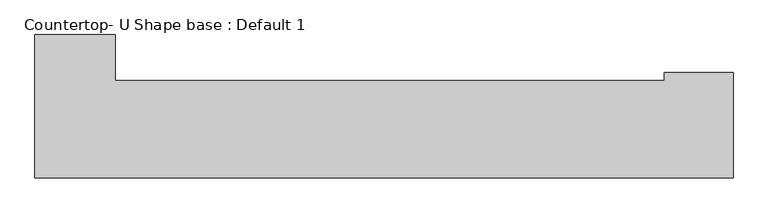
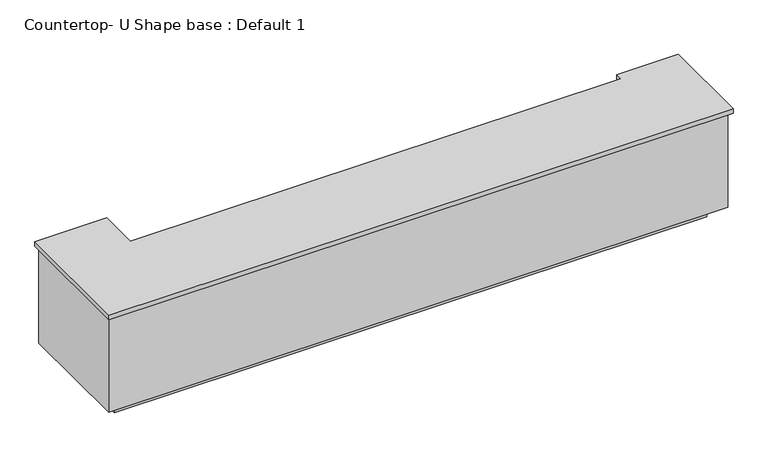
"""IFC4 building model written with IfcOpenShell, lengths in millimetres: proxy geometry, Countertop- U Shape base : Default 1."""

from ifc_helpers import new_model, si_unit, frame, origin, origin_with_axes, place, context, project, spatial, polyline, outline, extrude, source, transform, mapped, element, save


def countertop_u_shape_base_default_1_79f53b93(model_context):
    return source(origin(), model_context, "Body", "SweptSolid", [
        extrude(outline(polyline([(-2761.75, -19.05), (-2761.75, 958.85), (-2215.65, 958.85), (-2215.65, 647.7), (1524.5, 647.7), (1524.5, 701.9), (1994.4, 701.9), (1994.4, -19.05), (-2761.75, -19.05)])), frame((0.0, 0.0, 876.3), z_axis=(0.0, 0.0, 1.0), x_axis=(1.0, 0.0, 0.0)), (0.0, 0.0, 1.0), 38.1),
        extrude(outline(polyline([(1543.55, 628.65), (1543.55, 682.85), (1975.35, 682.85), (1975.35, 19.05), (-2742.7, 19.05), (-2742.7, 939.8), (-2234.7, 939.8), (-2234.7, 628.65), (1543.55, 628.65)])), frame((0.0, 0.0, 101.6), z_axis=(0.0, 0.0, 1.0), x_axis=(1.0, 0.0, 0.0)), (0.0, 0.0, 1.0), 774.7),
        extrude(outline(polyline([(-2311.0545837, 838.2), (-2311.0545837, 527.05), (1645.15, 527.05), (1645.15, 581.25), (1873.75, 581.25), (1873.75, 120.65), (-2641.1, 120.65), (-2641.1, 838.2), (-2311.0545837, 838.2)])), origin_with_axes(), (0.0, 0.0, 1.0), 101.6),
    ])


if __name__ == "__main__":
    model = new_model("IFC4")
    model_context = context("Model", 3, world=origin())
    ifc_project = project(units=[si_unit("LENGTHUNIT", "METRE", prefix="MILLI")], contexts=[model_context])
    site = spatial("IfcSite", under=ifc_project)
    building = spatial("IfcBuilding", under=site)
    placement = place(None, origin())
    countertop_u_shape_base_default_1_shape = countertop_u_shape_base_default_1_79f53b93(model_context)
    element("IfcBuildingElementProxy", 1, Name="Countertop- U Shape base : Default 1", ObjectType="Countertop- U Shape base : Default 1", at=placement, inside=building, context=model_context, shape_type="MappedRepresentation", body=[
        mapped(countertop_u_shape_base_default_1_shape, transform((0.0, 0.0, 0.0), x_axis=(1.0, 0.0, 0.0), y_axis=(0.0, 1.0, 0.0), z_axis=(0.0, 0.0, 1.0))),
    ])
    save(model, "model.ifc")
